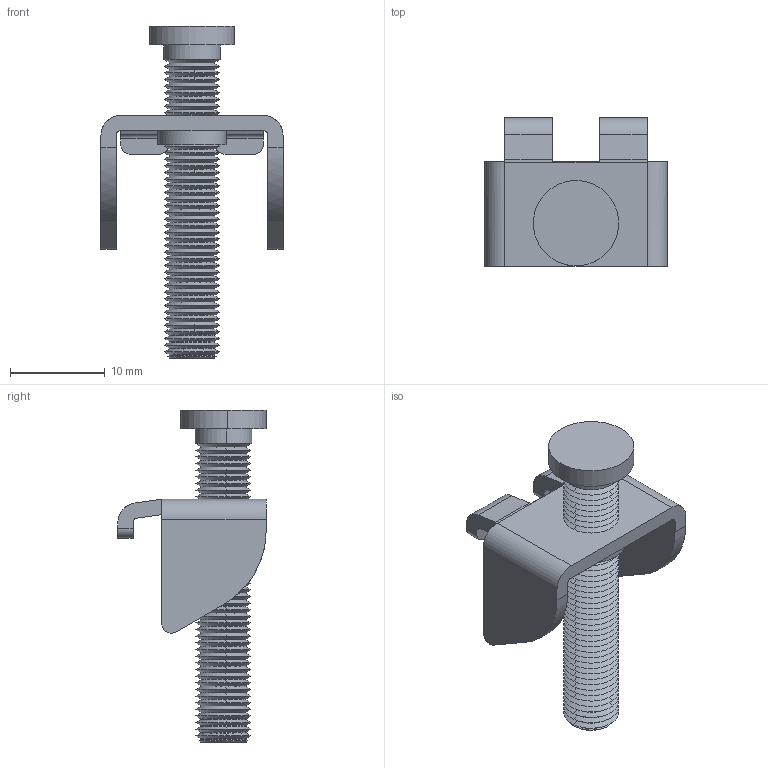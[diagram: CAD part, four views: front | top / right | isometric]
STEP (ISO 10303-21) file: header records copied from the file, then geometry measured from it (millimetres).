
FILE_DESCRIPTION (( 'STEP AP203' ), '1' );
FILE_NAME ('FIX KIT.STEP', '2021-08-24T14:41:53', ( '' ), ( '' ), 'SwSTEP 2.0', 'SolidWorks 2020', '' );
FILE_SCHEMA (( 'CONFIG_CONTROL_DESIGN' ));
Length unit declared in the file: millimetre
Products named in the file (3): FIX KIT; BRACKET FIX; VITEM6X35H_Semplice
Assembly tree (2 placements, depth 2):
  FIX KIT
    VITEM6X35H_Semplice
    BRACKET FIX
Bounding box: 19.2 x 15.63 x 35 mm (x, y, z)
Volume: 1597.7 mm3; surface area: 2402.7 mm2
Topology: 2 solids, 2 shells, 250 faces, 582 edges, 338 vertices
Faces by surface type: cone 183, cylinder 36, plane 31
Entity records: 7634 total; most frequent: CARTESIAN_POINT 1591, DIRECTION 1289, ORIENTED_EDGE 1164, EDGE_CURVE 582, AXIS2_PLACEMENT_3D 505, VERTEX_POINT 338, VECTOR 279, LINE 279
